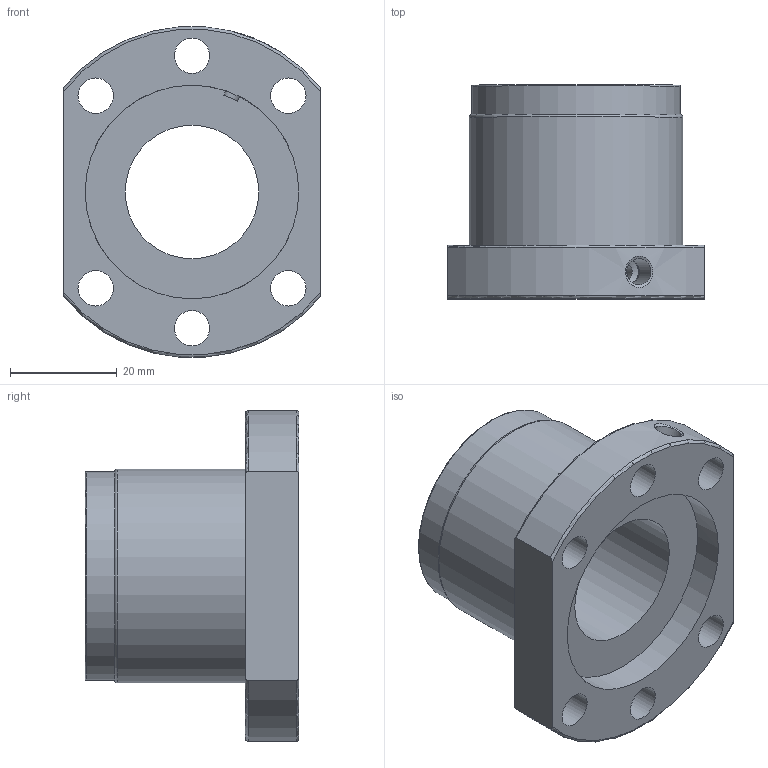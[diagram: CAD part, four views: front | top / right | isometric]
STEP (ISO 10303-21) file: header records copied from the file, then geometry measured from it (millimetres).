
FILE_DESCRIPTION(/* description */ ('Unknown'),/* implementation_level */ '2;1');
FILE_NAME(/* name */ '2505',/* time_stamp */ '2020-11-10T08:11:28+08:00',/* author */ ('Unknown'),/* organization */ ('Unknown'),/* preprocessor_version */ 'ST-DEVELOPER v16.7',/* originating_system */ 'DEX',/* authorisation */ $);
FILE_SCHEMA (('AUTOMOTIVE_DESIGN {1 0 10303 214 3 1 1}'));
Length unit declared in the file: millimetre
Products named in the file (1): 2505
Bounding box: 48 x 40 x 61.8 mm (x, y, z)
Volume: 37714.4 mm3; surface area: 14217 mm2
Topology: 1 solids, 1 shells, 30 faces, 84 edges, 57 vertices
Faces by surface type: cylinder 15, plane 7, torus 6, cone 2
Full cylindrical faces by diameter (mm): 3 x1, 4.917 x2, 6.6 x6, 25 x1, 39 x1, 40 x2
Entity records: 1621 total; most frequent: CARTESIAN_POINT 713, DIRECTION 141, ORIENTED_EDGE 110, AXIS2_PLACEMENT_3D 65, EDGE_LOOP 64, FACE_BOUND 64, EDGE_CURVE 55, VERTEX_POINT 45
